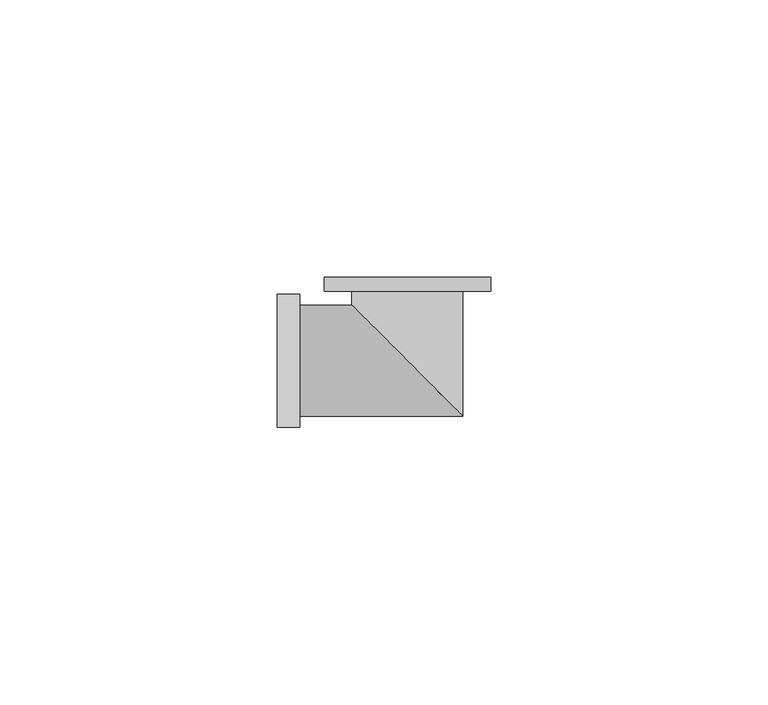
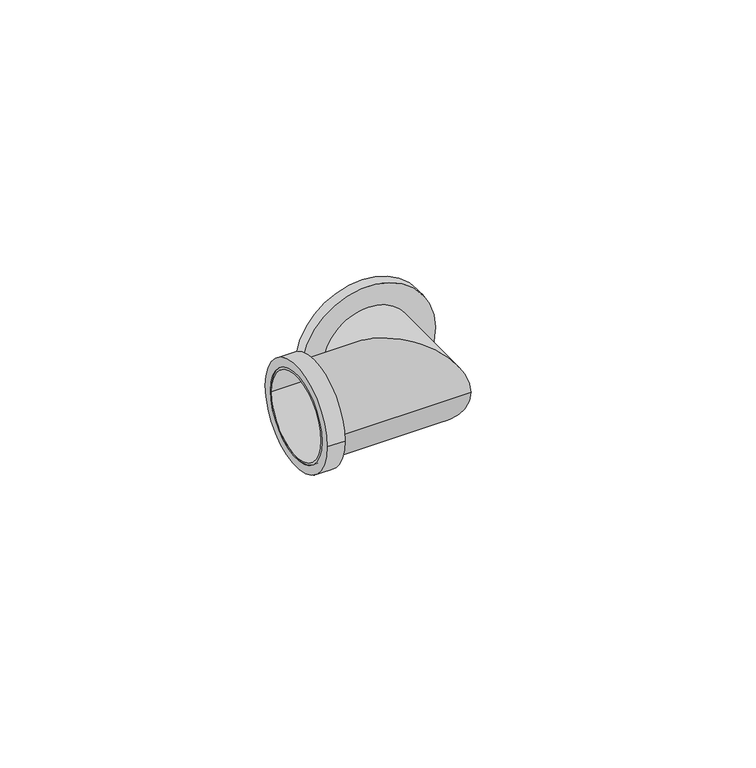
"""IFC4 building model written with IfcOpenShell, lengths in millimetres: pipe fitting geometry, БИР ПЕКС_НПР_Угольник_Медь : Угольник медь (пайка) — ПЕКС."""

from ifc_helpers import new_model, si_unit, point, frame, origin, origin_2d, place, context, project, spatial, polyline, circle_curve, ellipse_curve, trimmed, segment, composite_curve, outline, extrude, source, transform, mapped, element, save
from ifc_brep_helpers import plane_surface, cylinder_surface, revolved_surface, advanced_brep


def pipe_fitting_79c094c8(model_context):
    return source(origin(), model_context, "Body", "SolidModel", [
        extrude(outline(composite_curve([segment(trimmed(circle_curve(origin_2d(), 12.0), [point((-12.0, 0.0))], [point((12.0, 0.0))], False, "CARTESIAN"), True, "CONTINUOUS"), segment(trimmed(circle_curve(origin_2d(), 12.0), [point((12.0, 0.0))], [point((-12.0, 0.0))], False, "CARTESIAN"), True, "CONTINUOUS")], self_intersect=False), holes=[composite_curve([segment(trimmed(circle_curve(origin_2d(), 10.0), [point((-10.0, 0.0))], [point((10.0, 0.0))], True, "CARTESIAN"), True, "CONTINUOUS"), segment(trimmed(circle_curve(origin_2d(), 10.0), [point((10.0, 0.0))], [point((-10.0, 0.0))], True, "CARTESIAN"), True, "CONTINUOUS")], self_intersect=False)]), frame((-23.4, 0.0, 0.0), z_axis=(1.0, 0.0, 0.0), x_axis=(0.0, 1.0, 0.0)), (0.0, 0.0, 1.0), 4.0),
        advanced_brep(
        [(-23.4, -10.0, 0.0), (-23.4, 10.0, 0.0), (-23.4, -9.5, 0.0), (-23.4, 9.5, 0.0), (10.0, -10.0, 0.0), (-10.0, 10.0, 0.0), (-15.0, 15.0, 0.0), (15.0, 15.0, 0.0), (-7.5, 15.0, 0.0), (7.5, 15.0, 0.0), (10.0, 12.5, 0.0), (-10.0, 12.5, 0.0), (-15.0, 12.5, 0.0), (15.0, 12.5, 0.0), (-9.5, 12.5, 0.0), (9.5, 12.5, 0.0), (-7.5, 12.5, 0.0), (7.5, 12.5, 0.0), (9.5, -9.5, 0.0), (-9.5, 9.5, 0.0)],
        [
            (0, 1, circle_curve(frame((-23.4, 0.0, 0.0), z_axis=(-1.0, 0.0, 0.0), x_axis=(0.0, 1.0, 0.0)), 10.0)),
            (1, 0, circle_curve(frame((-23.4, 0.0, 0.0), z_axis=(-1.0, 0.0, 0.0), x_axis=(0.0, 1.0, 0.0)), 10.0)),
            (2, 3, circle_curve(frame((-23.4, 0.0, 0.0), z_axis=(1.0, 0.0, 0.0), x_axis=(0.0, 1.0, 0.0)), 9.5)),
            (3, 2, circle_curve(frame((-23.4, 0.0, 0.0), z_axis=(1.0, 0.0, 0.0), x_axis=(0.0, 1.0, 0.0)), 9.5)),
            (0, 4),
            (4, 5, ellipse_curve(frame((0.0, 0.0, 0.0), z_axis=(-0.7071067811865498, -0.7071067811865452, 0.0), x_axis=(-0.7071067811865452, 0.7071067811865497, 0.0)), 14.1421356, 10.0)),
            (5, 1),
            (5, 4, ellipse_curve(frame((0.0, 0.0, 0.0), z_axis=(-0.7071067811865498, -0.7071067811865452, 0.0), x_axis=(-0.7071067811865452, 0.7071067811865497, 0.0)), 14.1421356, 10.0)),
            (6, 7, circle_curve(frame((0.0, 15.0, 0.0), z_axis=(0.0, 1.0, 0.0), x_axis=(1.0, 0.0, 0.0)), 15.0)),
            (7, 6, circle_curve(frame((0.0, 15.0, 0.0), z_axis=(0.0, 1.0, 0.0), x_axis=(1.0, 0.0, 0.0)), 15.0)),
            (8, 9, circle_curve(frame((0.0, 15.0, 0.0), z_axis=(0.0, -1.0, 0.0), x_axis=(1.0, 0.0, 0.0)), 7.5)),
            (9, 8, circle_curve(frame((0.0, 15.0, 0.0), z_axis=(0.0, -1.0, 0.0), x_axis=(1.0, 0.0, 0.0)), 7.5)),
            (4, 10),
            (10, 11, circle_curve(frame((0.0, 12.5, 0.0), z_axis=(0.0, -1.0, 0.0), x_axis=(-1.0, 0.0, 0.0)), 10.0)),
            (11, 5),
            (11, 10, circle_curve(frame((0.0, 12.5, 0.0), z_axis=(0.0, -1.0, 0.0), x_axis=(-1.0, 0.0, 0.0)), 10.0)),
            (12, 13, circle_curve(frame((0.0, 12.5, 0.0), z_axis=(0.0, -1.0, 0.0), x_axis=(1.0, 0.0, 0.0)), 15.0)),
            (13, 12, circle_curve(frame((0.0, 12.5, 0.0), z_axis=(0.0, -1.0, 0.0), x_axis=(1.0, 0.0, 0.0)), 15.0)),
            (14, 15, circle_curve(frame((0.0, 12.5, 0.0), z_axis=(0.0, -1.0, 0.0), x_axis=(-1.0, 0.0, 0.0)), 9.5)),
            (15, 14, circle_curve(frame((0.0, 12.5, 0.0), z_axis=(0.0, -1.0, 0.0), x_axis=(-1.0, 0.0, 0.0)), 9.5)),
            (16, 17, circle_curve(frame((0.0, 12.5, 0.0), z_axis=(0.0, 1.0, 0.0), x_axis=(1.0, 0.0, 0.0)), 7.5)),
            (17, 16, circle_curve(frame((0.0, 12.5, 0.0), z_axis=(0.0, 1.0, 0.0), x_axis=(1.0, 0.0, 0.0)), 7.5)),
            (12, 6),
            (7, 13),
            (2, 18),
            (18, 19, ellipse_curve(frame((0.0, 0.0, 0.0), z_axis=(0.7071067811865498, 0.7071067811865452, 0.0), x_axis=(0.7071067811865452, -0.7071067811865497, 0.0)), 13.4350288, 9.5)),
            (19, 3),
            (19, 18, ellipse_curve(frame((0.0, 0.0, 0.0), z_axis=(0.7071067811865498, 0.7071067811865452, 0.0), x_axis=(0.7071067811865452, -0.7071067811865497, 0.0)), 13.4350288, 9.5)),
            (18, 15),
            (14, 19),
            (16, 8),
            (9, 17),
        ],
        [
            plane_surface(frame((-23.4, 0.0, 0.0), z_axis=(-1.0, 0.0, 0.0), x_axis=(0.0, 0.0, 1.0))),
            cylinder_surface(frame((-23.4, 0.0, 0.0), z_axis=(-1.0, 0.0, 0.0), x_axis=(0.0, 1.0, 0.0)), 10.0),
            plane_surface(frame((0.0, 15.0, 0.0), z_axis=(0.0, 1.0, 0.0), x_axis=(0.0, 0.0, 1.0))),
            cylinder_surface(frame((0.0, 0.0, 0.0), z_axis=(0.0, -1.0, 0.0), x_axis=(-1.0, 0.0, 0.0)), 10.0),
            plane_surface(frame((15.0, 12.5, 0.0), z_axis=(0.0, -1.0, 0.0), x_axis=(0.0, 0.0, 1.0))),
            cylinder_surface(frame((0.0, 15.0, 0.0), z_axis=(0.0, -1.0, 0.0), x_axis=(1.0, 0.0, 0.0)), 15.0),
            revolved_surface(polyline([(9.5, 9.5, 0.0), (-23.4, 9.5, 0.0)]), (-23.4, 0.0, 0.0), (1.0, 0.0, 0.0)),
            revolved_surface(polyline([(-9.5, 12.5, 0.0), (-9.5, -9.5, 0.0)]), (0.0, 0.0, 0.0), (0.0, 1.0, 0.0)),
            revolved_surface(polyline([(7.5, 15.0, 0.0), (7.5, 12.5, 0.0)]), (0.0, 0.0, 0.0), (0.0, 1.0, 0.0)),
        ],
        [
            (0, [[1, 2], [3, 4]]),
            (1, [[-1, 5, 6, 7]]),
            (1, [[-2, -7, 8, -5]]),
            (2, [[9, 10], [11, 12]]),
            (3, [[-6, 13, 14, 15]]),
            (3, [[-8, -15, 16, -13]]),
            (4, [[17, 18], [-14, -16]]),
            (4, [[19, 20], [21, 22]]),
            (5, [[-17, 23, -10, 24]]),
            (5, [[-18, -24, -9, -23]]),
            (6, [[-3, 25, 26, 27]]),
            (6, [[-4, -27, 28, -25]]),
            (7, [[-26, 29, -19, 30]]),
            (7, [[-28, -30, -20, -29]]),
            (8, [[-21, 31, -12, 32]]),
            (8, [[-22, -32, -11, -31]]),
        ],
    ),
    ])


if __name__ == "__main__":
    model = new_model("IFC4")
    model_context = context("Model", 3, world=origin())
    ifc_project = project(units=[si_unit("LENGTHUNIT", "METRE", prefix="MILLI")], contexts=[model_context])
    site = spatial("IfcSite", under=ifc_project)
    building = spatial("IfcBuilding", under=site)
    placement = place(None, origin())
    pipe_fitting_shape = pipe_fitting_79c094c8(model_context)
    element("IfcPipeFitting", 1, ObjectType="БИР ПЕКС_НПР_Угольник_Медь : Угольник медь (пайка) — ПЕКС", at=placement, inside=building, context=model_context, shape_type="MappedRepresentation", body=[
        mapped(pipe_fitting_shape, transform((0.0, 0.0, 0.0), x_axis=(1.0, 0.0, 0.0), y_axis=(0.0, 1.0, 0.0), z_axis=(0.0, 0.0, 1.0))),
    ])
    save(model, "model.ifc")
